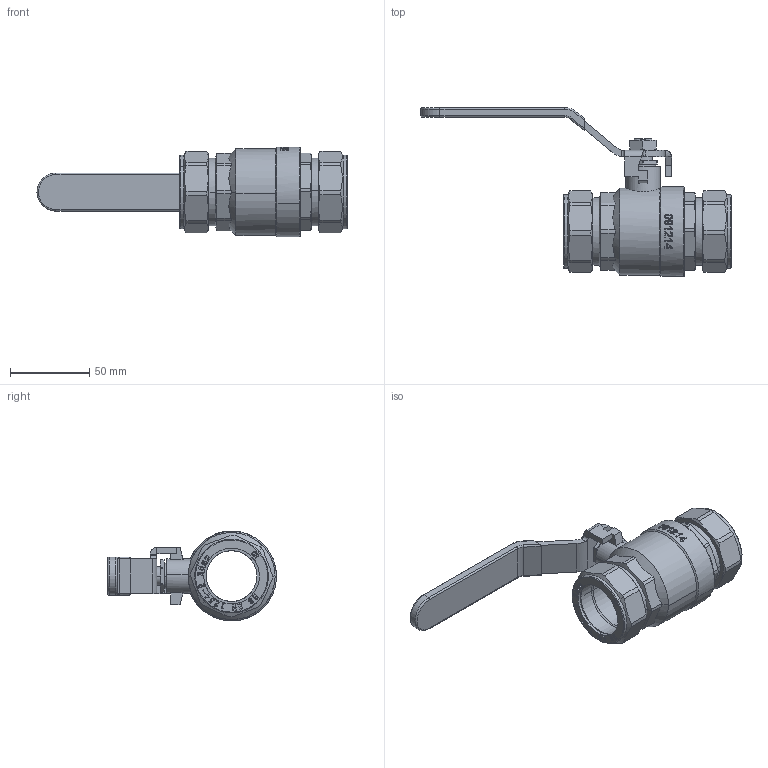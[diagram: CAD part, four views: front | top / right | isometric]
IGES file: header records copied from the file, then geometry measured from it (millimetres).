
Global section: file name: No Iges File Name specified; native system: AutoDesk Inventor R12.0; preprocessor: AutoDesk Inventor Iges Exporter R12.0; date: 20110127.141302; units: millimetre
Bounding box: 195.52 x 106.46 x 56.6 mm (x, y, z)
Volume: 147649.4 mm3; surface area: 80378.6 mm2
Topology: 6 solids, 6 shells, 2184 faces, 5960 edges, 3973 vertices
Faces by surface type: plane 1136, bspline 734, cylinder 109, revolution 105, cone 72, torus 24, sphere 4
